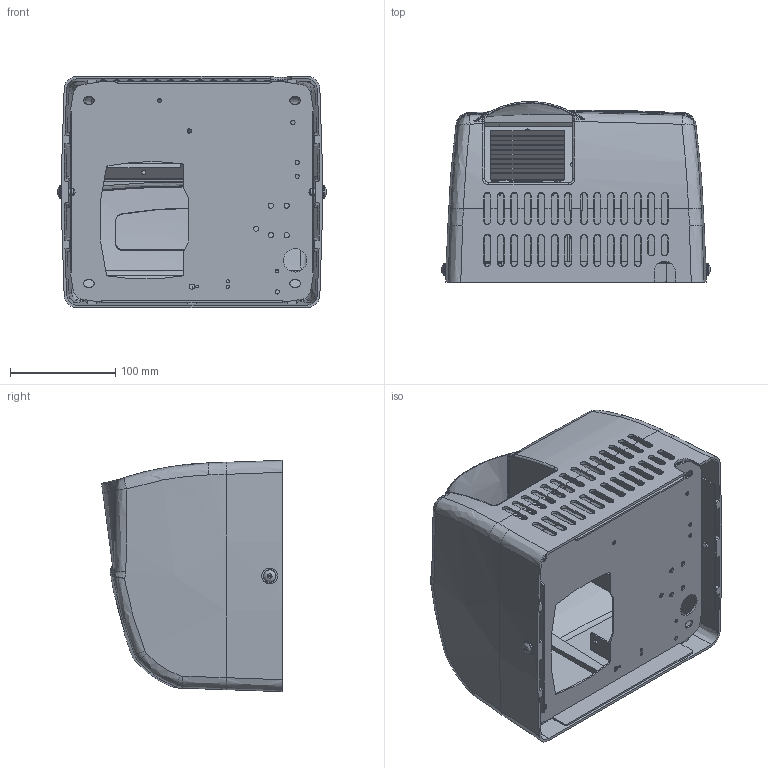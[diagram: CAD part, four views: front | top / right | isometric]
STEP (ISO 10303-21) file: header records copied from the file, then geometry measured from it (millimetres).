
FILE_DESCRIPTION((''),'2;1');
FILE_NAME('M:\Standardvarer\Håndtørrere\270 Dan Dryer - Mini\Tegninger\Public 3D files\270 Dan Dryer - Mini.stp','2010-05-18T09:37:39',('Dan Dryer'),(''),'Autodesk Inventor 2010','Autodesk Inventor 2010','');
FILE_SCHEMA(('AUTOMOTIVE_DESIGN { 1 0 10303 214 1 1 1 1 }'));
Length unit declared in the file: millimetre
Products named in the file (5): 270 Dan Dryer - Mini; 270 Dan Dryer - Mini-3; 270 Dan Dryer - Mini-1; 270 Dan Dryer - Mini-4; 270 Dan Dryer - Mini-2
Assembly tree (5 placements, depth 2):
  270 Dan Dryer - Mini
    270 Dan Dryer - Mini-3
    270 Dan Dryer - Mini-1  x2
    270 Dan Dryer - Mini-4
    270 Dan Dryer - Mini-2
Bounding box: 256 x 171.79 x 220 mm (x, y, z)
Volume: 556032 mm3; surface area: 477498.2 mm2
Topology: 5 solids, 5 shells, 724 faces, 2068 edges, 1308 vertices
Faces by surface type: plane 355, bspline 240, cylinder 115, cone 12, torus 2
Full cylindrical faces by diameter (mm): 1.5 x2, 2.4 x1, 3 x2, 3.4 x1, 4 x6, 4.6 x1, 5 x5, 5.5 x2, 6 x2, 6.35 x2, 7 x2, 12 x2, 15 x2, 22.2 x1
Entity records: 34664 total; most frequent: CARTESIAN_POINT 17251, ORIENTED_EDGE 3992, DIRECTION 2982, EDGE_CURVE 1996, VERTEX_POINT 1281, VECTOR 1150, LINE 1150, AXIS2_PLACEMENT_3D 916
